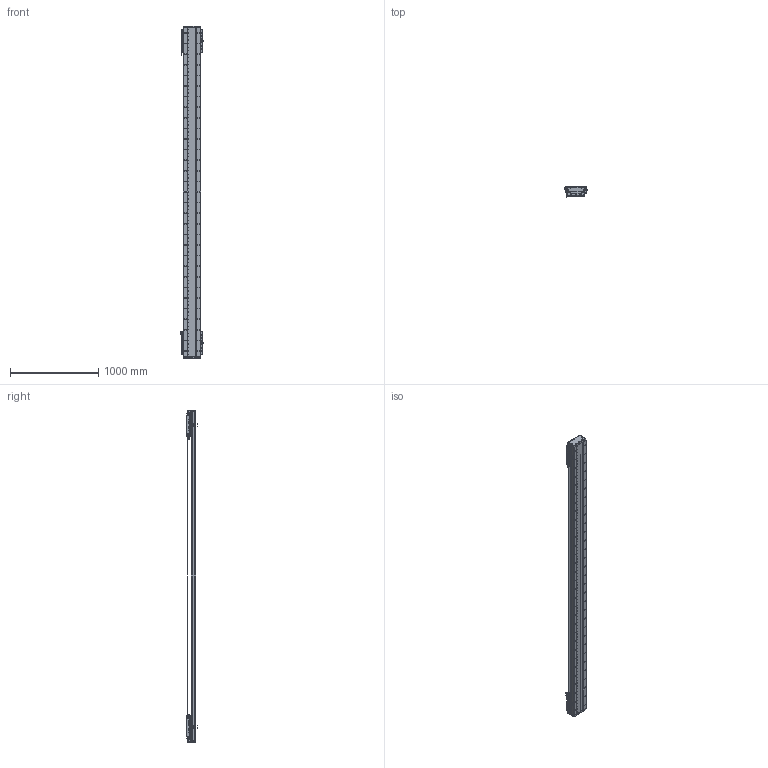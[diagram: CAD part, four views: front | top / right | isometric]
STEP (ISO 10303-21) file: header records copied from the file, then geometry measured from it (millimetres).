
FILE_DESCRIPTION (( 'STEP AP203' ), '1' );
FILE_NAME ('DA-C195-2-C3-T3140-C010-0.2 眻盄萇儂.STEP', '2025-08-15T00:54:17', ( '' ), ( '' ), 'SwSTEP 2.0', 'SolidWorks 2019', '' );
FILE_SCHEMA (( 'CONFIG_CONTROL_DESIGN' ));
Length unit declared in the file: millimetre
Products named in the file (19): DKW-GYP-ZJ-00 笢潔嫖萇覜茼え; DA195詩湍菜輸; LMT黍杅芛; DA-C195-GD-DB-H-00 傷啣; DA-C195-2-C3-T3140-C010-0.2 眻盄萇儂; IU-CU195-L 菁釱絳寢; 葩璃 DA95-GT-T-00; DKW-KGZ-ZJ-00 中间光电开关支架; MS200 棠掑喜S315-T240; DA165-GYP-00 光电感应片(默认); IU-CU195-L-00 菁釱(L3720); DA195詩湍裔啣; CU195-C3賑輸-俋楷; DA195詩湍郪璃; PM-T45ㄗ侂狟ㄘ; DA195詩湍嶺輸; DA95-HXJ-00 遣喳砎蝶; PM-Y65嫖萇羲壽郪璃; DKW168-HXJ-ZJ-00 笢潔滅袉砎蝶
Assembly tree (37 placements, depth 3):
  DA-C195-2-C3-T3140-C010-0.2 眻盄萇儂
    DA195詩湍郪璃
      DA195詩湍菜輸  x2
      DA195詩湍裔啣
      DA195詩湍嶺輸  x2
      DA95-HXJ-00 遣喳砎蝶  x8
      DA-C195-GD-DB-H-00 傷啣  x2
    IU-CU195-L 菁釱絳寢
      IU-CU195-L-00 菁釱(L3720)
      葩璃 DA95-GT-T-00  x4
    LMT黍杅芛  x2
    MS200 棠掑喜S315-T240
    PM-T45ㄗ侂狟ㄘ  x4
    DA165-GYP-00 光电感应片(默认)  x2
    PM-Y65嫖萇羲壽郪璃
    DKW168-HXJ-ZJ-00 笢潔滅袉砎蝶
    DKW-GYP-ZJ-00 笢潔嫖萇覜茼え
    DKW-KGZ-ZJ-00 中间光电开关支架
    CU195-C3賑輸-俋楷  x2
Bounding box: 258.2 x 115.45 x 3760 mm (x, y, z)
Volume: 22762295.1 mm3; surface area: 6648340.5 mm2
Topology: 154 solids, 218 shells, 7359 faces, 20223 edges, 12677 vertices
Faces by surface type: cylinder 3738, plane 2569, cone 884, torus 88, sphere 72, bspline 8
Entity records: 173961 total; most frequent: CARTESIAN_POINT 49545, ORIENTED_EDGE 26462, DIRECTION 24520, EDGE_CURVE 13231, AXIS2_PLACEMENT_3D 9073, VERTEX_POINT 8602, LINE 6374, VECTOR 6374
